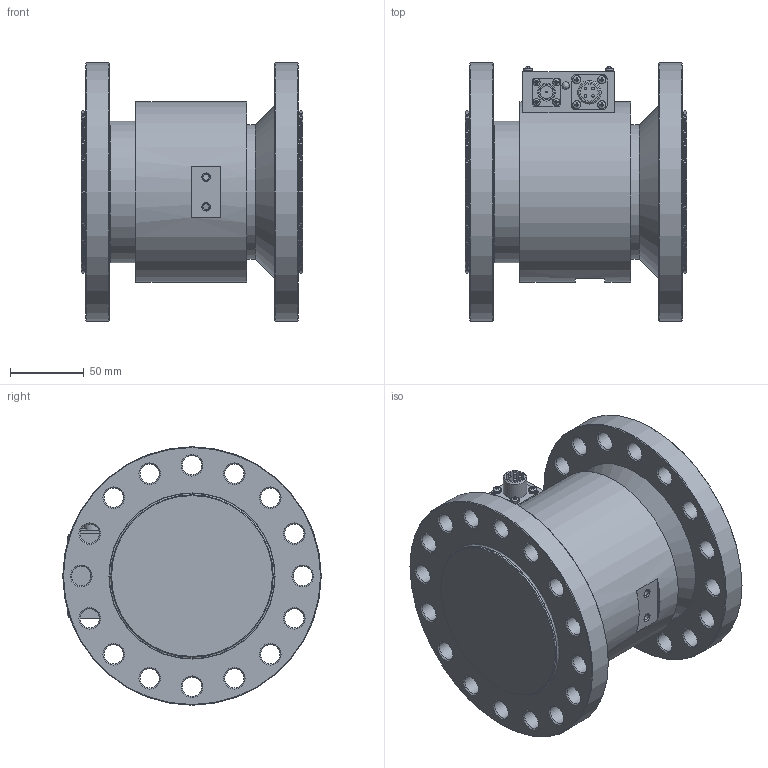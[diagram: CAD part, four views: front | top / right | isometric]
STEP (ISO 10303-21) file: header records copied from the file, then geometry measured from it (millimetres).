
FILE_DESCRIPTION (( 'STEP AP214' ), '1' );
FILE_NAME ('M20C-5K.STEP', '2023-03-13T13:20:16', ( '' ), ( '' ), 'SwSTEP 2.0', 'SolidWorks 2019', '' );
FILE_SCHEMA (( 'AUTOMOTIVE_DESIGN' ));
Length unit declared in the file: millimetre
Products named in the file (1): M20C-5K
Bounding box: 150 x 175 x 175 mm (x, y, z)
Volume: 1926773.9 mm3; surface area: 177008.9 mm2
Topology: 1 solids, 7 shells, 714 faces, 1760 edges, 1099 vertices
Faces by surface type: plane 358, cone 181, cylinder 136, bspline 39
Full cylindrical faces by diameter (mm): 1 x1, 1.9 x4, 2.5 x8, 3 x8, 3.2 x2, 4.2 x2, 5 x5, 5.6 x8, 8.9 x1, 10.5 x1, 12 x1, 13 x32, 16 x1, 30 x1, 72 x1, 91 x1, 96 x2, 110 x2, 122 x1, 175 x2
Entity records: 21262 total; most frequent: CARTESIAN_POINT 6166, DIRECTION 3062, ORIENTED_EDGE 2904, EDGE_CURVE 1452, AXIS2_PLACEMENT_3D 1299, EDGE_LOOP 1053, VERTEX_POINT 1003, FACE_OUTER_BOUND 824
